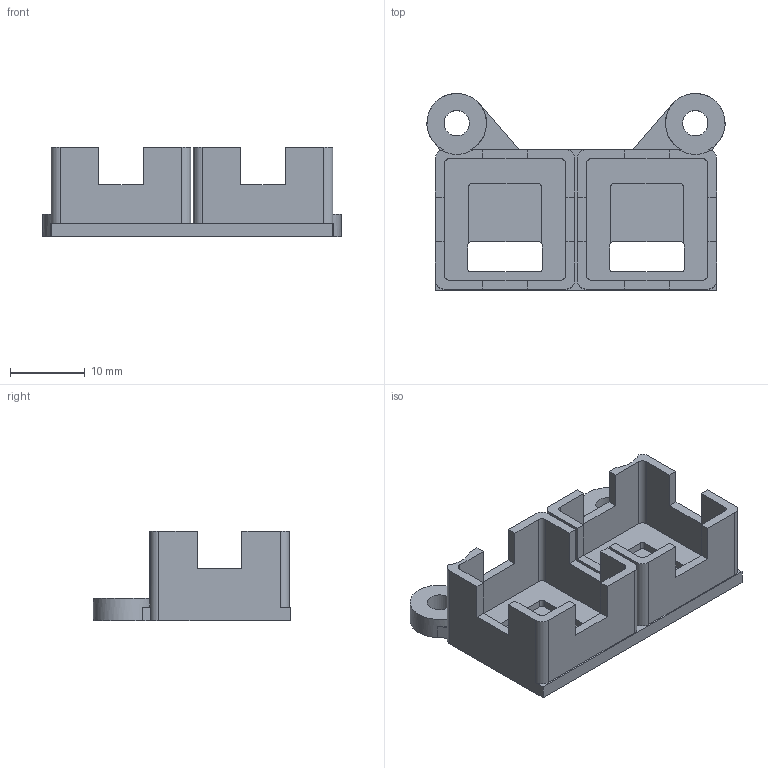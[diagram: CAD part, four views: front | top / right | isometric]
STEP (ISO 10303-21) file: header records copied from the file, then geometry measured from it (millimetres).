
FILE_DESCRIPTION(('Open CASCADE Model'),'2;1');
FILE_NAME('Open CASCADE Shape Model','2026-09-15T22:36:36',('Author'),( 'Open CASCADE'),'Open CASCADE STEP processor 7.9','Open CASCADE 7.9' ,'Unknown');
FILE_SCHEMA(('AUTOMOTIVE_DESIGN { 1 0 10303 214 1 1 1 1 }'));
Length unit declared in the file: millimetre
Products named in the file (1): Open CASCADE STEP translator 7.9 2
Bounding box: 40 x 26.45 x 12 mm (x, y, z)
Volume: 2651.6 mm3; surface area: 4369 mm2
Topology: 1 solids, 1 shells, 112 faces, 330 edges, 220 vertices
Faces by surface type: plane 78, cylinder 34
Full cylindrical faces by diameter (mm): 3.4 x2
Entity records: 8094 total; most frequent: CARTESIAN_POINT 1522, DIRECTION 1232, LINE 793, VECTOR 793, ORIENTED_EDGE 660, PCURVE 660, DEFINITIONAL_REPRESENTATION 660, EDGE_CURVE 330
